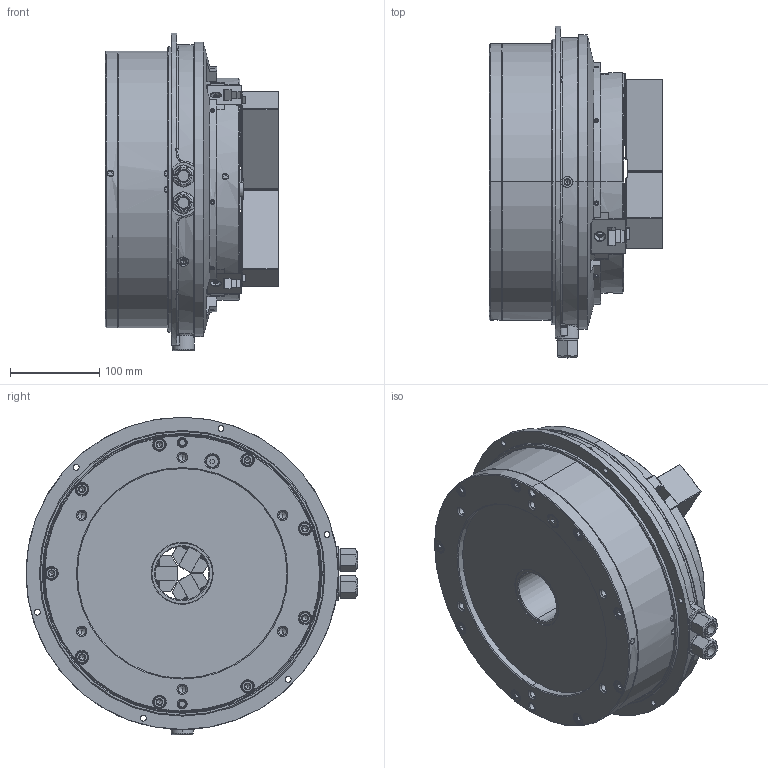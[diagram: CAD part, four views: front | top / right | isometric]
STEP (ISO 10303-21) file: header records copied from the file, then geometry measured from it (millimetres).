
FILE_DESCRIPTION (( 'STEP AP214' ), '1' );
FILE_NAME ('DEV-UVE250K-OC.STEP', '2024-10-03T00:24:09', ( '' ), ( '' ), 'SwSTEP 2.0', 'SolidWorks 2022', '' );
FILE_SCHEMA (( 'AUTOMOTIVE_DESIGN' ));
Length unit declared in the file: millimetre
Products named in the file (6): Copy of P31633^DEV-UVE250K-クミタテ; DEV-UVE250K-OC; Part2^DEV-UVE250K-クミタテ; Copy of 0030112030^DEV-UVE250K-クミタテ; Copy of 0693000003^DEV-UVE250K-クミタテ; Copy of 61P401335^DEV-UVE250K-クミタテ
Assembly tree (18 placements, depth 2):
  DEV-UVE250K-OC
    Copy of P31633^DEV-UVE250K-クミタテ  x3
    Copy of 61P401335^DEV-UVE250K-クミタテ  x6
    Copy of 0030112030^DEV-UVE250K-クミタテ  x6
    Copy of 0693000003^DEV-UVE250K-クミタテ  x2
    Part2^DEV-UVE250K-クミタテ
Bounding box: 194.45 x 372 x 356 mm (x, y, z)
Volume: 10546574.1 mm3; surface area: 605204.9 mm2
Topology: 19 solids, 52 shells, 5439 faces, 15083 edges, 9829 vertices
Faces by surface type: plane 3361, cylinder 1150, cone 597, bspline 241, torus 68, sphere 22
Entity records: 151351 total; most frequent: CARTESIAN_POINT 45947, ORIENTED_EDGE 23828, DIRECTION 19211, EDGE_CURVE 11914, VECTOR 7859, LINE 7859, VERTEX_POINT 7813, AXIS2_PLACEMENT_3D 5676
